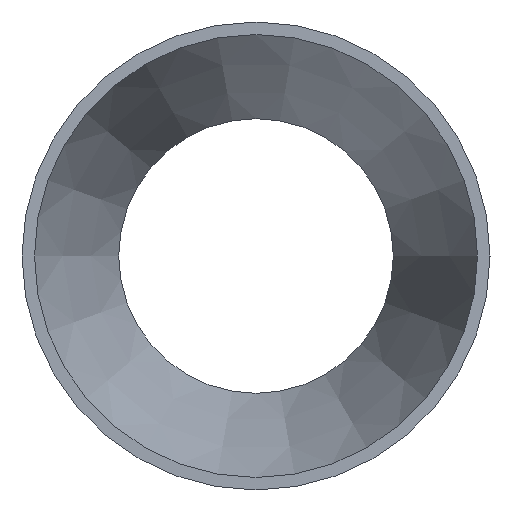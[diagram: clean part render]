
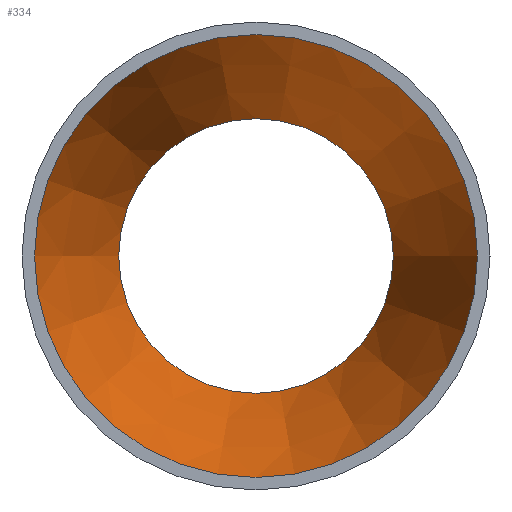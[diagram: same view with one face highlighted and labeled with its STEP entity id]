
A CAD part, left-side view. The second image highlights one B-rep face of the part: STEP entity #334.
In plain terms, the highlighted conical face has half-angle 18.088 degrees and reference radius 43.815 mm.
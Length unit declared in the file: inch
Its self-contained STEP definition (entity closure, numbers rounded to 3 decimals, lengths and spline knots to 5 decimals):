
#66=FACE_OUTER_BOUND('',#82,.T.);
#82=EDGE_LOOP('',(#235,#236,#237,#238,#239,#240));
#104=LINE('',#580,#114);
#114=VECTOR('',#447,1.725);
#127=CIRCLE('',#375,1.32);
#128=CIRCLE('',#376,2.13);
#129=CIRCLE('',#377,2.13);
#130=CIRCLE('',#378,1.32);
#159=VERTEX_POINT('',#576);
#160=VERTEX_POINT('',#577);
#161=VERTEX_POINT('',#579);
#162=VERTEX_POINT('',#581);
#192=EDGE_CURVE('',#159,#160,#127,.T.);
#193=EDGE_CURVE('',#160,#161,#104,.T.);
#194=EDGE_CURVE('',#162,#161,#128,.T.);
#195=EDGE_CURVE('',#161,#162,#129,.T.);
#196=EDGE_CURVE('',#160,#159,#130,.T.);
#235=ORIENTED_EDGE('',*,*,#192,.T.);
#236=ORIENTED_EDGE('',*,*,#193,.T.);
#237=ORIENTED_EDGE('',*,*,#194,.F.);
#238=ORIENTED_EDGE('',*,*,#195,.F.);
#239=ORIENTED_EDGE('',*,*,#193,.F.);
#240=ORIENTED_EDGE('',*,*,#196,.T.);
#314=CONICAL_SURFACE('',#374,1.725,0.316);
#334=ADVANCED_FACE('',(#66),#314,.F.);
#374=AXIS2_PLACEMENT_3D('',#575,#443,#444);
#375=AXIS2_PLACEMENT_3D('',#578,#445,#446);
#376=AXIS2_PLACEMENT_3D('',#582,#448,#449);
#377=AXIS2_PLACEMENT_3D('',#583,#450,#451);
#378=AXIS2_PLACEMENT_3D('',#584,#452,#453);
#443=DIRECTION('center_axis',(-1.,0.,0.));
#444=DIRECTION('ref_axis',(0.,1.,0.));
#445=DIRECTION('center_axis',(1.,0.,0.));
#446=DIRECTION('ref_axis',(0.,1.,0.));
#447=DIRECTION('',(-0.951,-0.31,0.));
#448=DIRECTION('center_axis',(1.,0.,0.));
#449=DIRECTION('ref_axis',(0.,1.,0.));
#450=DIRECTION('center_axis',(1.,0.,0.));
#451=DIRECTION('ref_axis',(0.,1.,0.));
#452=DIRECTION('center_axis',(1.,0.,0.));
#453=DIRECTION('ref_axis',(0.,1.,0.));
#575=CARTESIAN_POINT('Origin',(2.5,0.,0.));
#576=CARTESIAN_POINT('',(3.74,1.32,0.));
#577=CARTESIAN_POINT('',(3.74,-1.32,0.));
#578=CARTESIAN_POINT('Origin',(3.74,0.,0.));
#579=CARTESIAN_POINT('',(1.26,-2.13,0.));
#580=CARTESIAN_POINT('',(2.5,-1.725,0.));
#581=CARTESIAN_POINT('',(1.26,2.13,0.));
#582=CARTESIAN_POINT('Origin',(1.26,0.,0.));
#583=CARTESIAN_POINT('Origin',(1.26,0.,0.));
#584=CARTESIAN_POINT('Origin',(3.74,0.,0.));
